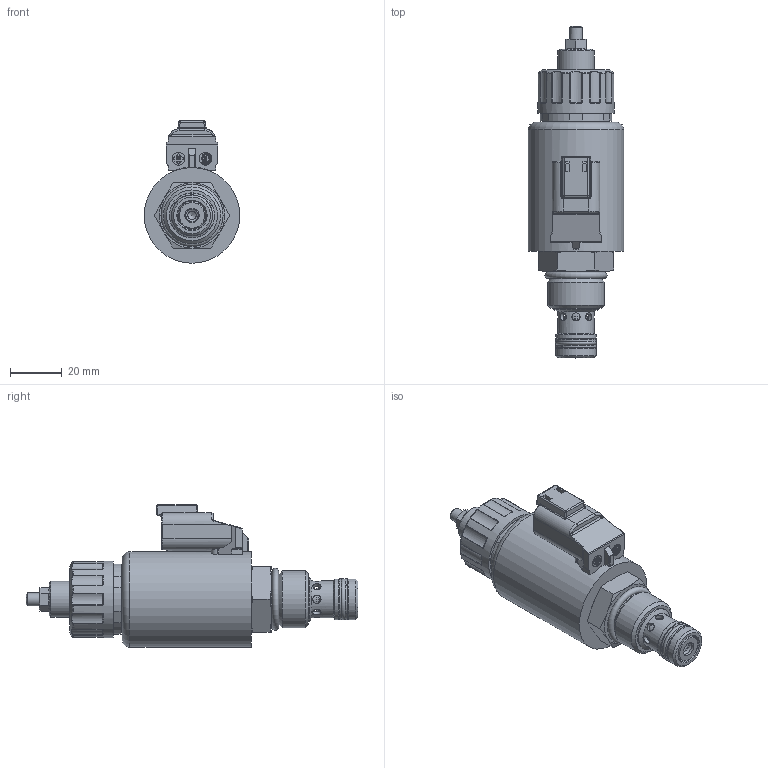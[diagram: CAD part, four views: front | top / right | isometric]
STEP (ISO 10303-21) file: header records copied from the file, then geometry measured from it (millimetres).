
FILE_DESCRIPTION(/* description */ (''),/* implementation_level */ '2;1');
FILE_NAME(/* name */ 'C:\Users\mcooper\OneDrive - Deltrol Corporation\Desktop\DFP_Docs\Deltrol\Catalog Pages - Proportional Valve Line\Website\DPFR2-100-2NO\DPFR2-100-2NO.stp',/* time_stamp */ '2026-01-29T08:40:15-05:00',/* author */ ('mcooper'),/* organization */ (''),/* preprocessor_version */ 'ST-DEVELOPER v18',/* originating_system */ 'Autodesk Inventor 2020',/* authorisation */ '');
FILE_SCHEMA (('AUTOMOTIVE_DESIGN { 1 0 10303 214 3 1 1 }'));
Length unit declared in the file: inch
Products named in the file (1): valve and coil_Shrinkwrap_1
Bounding box: 37.1 x 128.78 x 55.25 mm (x, y, z)
Volume: 75799.6 mm3; surface area: 35004.8 mm2
Topology: 4 solids, 4 shells, 926 faces, 2517 edges, 1681 vertices
Faces by surface type: plane 365, cylinder 328, bspline 94, torus 77, cone 53, sphere 9
Full cylindrical faces by diameter (mm): 0.135 x1, 0.166 x1, 0.445 x2, 1.57 x2, 2.032 x9, 2.915 x1, 3.175 x9, 3.581 x1, 4.318 x1, 4.331 x1, 4.724 x2, 4.775 x1, 4.978 x2, 5 x2, 5.537 x1, 5.575 x2, 5.702 x2, 6.337 x5, 6.35 x4, 7.366 x1, 7.701 x2, 8.433 x1, 8.534 x1, 8.717 x4, 8.733 x1, 9.525 x1, 9.652 x1, 9.728 x1, 9.906 x1, 10.089 x4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
Entity records: 38605 total; most frequent: CARTESIAN_POINT 14009, ORIENTED_EDGE 5028, DIRECTION 4908, EDGE_CURVE 2514, AXIS2_PLACEMENT_3D 1937, VERTEX_POINT 1681, CIRCLE 1060, EDGE_LOOP 1059
